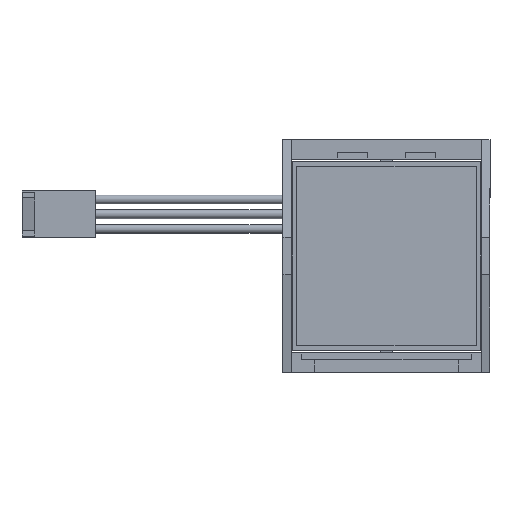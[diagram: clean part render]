
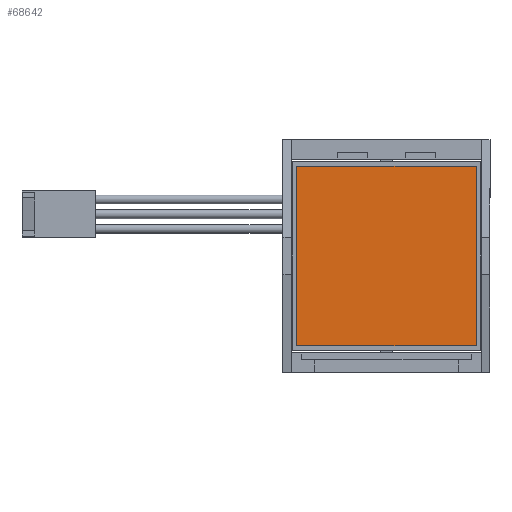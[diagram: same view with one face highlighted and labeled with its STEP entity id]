
A CAD part, front view. The second image highlights one B-rep face of the part: STEP entity #68642.
In plain terms, the highlighted planar face has unit normal (0, -1, 0).
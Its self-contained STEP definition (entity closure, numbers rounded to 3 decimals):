
#5593 = LINE ( 'NONE', #68608, #33980 ) ;
#8227 = EDGE_CURVE ( 'NONE', #39703, #55119, #20271, .T. ) ;
#9285 = EDGE_LOOP ( 'NONE', ( #20214, #18216, #28822, #13923 ) ) ;
#10806 = AXIS2_PLACEMENT_3D ( 'NONE', #64967, #49269, #59716 ) ;
#11554 = VECTOR ( 'NONE', #63632, 1000. ) ;
#13923 = ORIENTED_EDGE ( 'NONE', *, *, #41732, .F. ) ;
#15416 = CARTESIAN_POINT ( 'NONE',  ( -15.5, -0.127, -15.5 ) ) ;
#18216 = ORIENTED_EDGE ( 'NONE', *, *, #8227, .F. ) ;
#19198 = CARTESIAN_POINT ( 'NONE',  ( -15.5, -0.127, 15.5 ) ) ;
#20054 = EDGE_CURVE ( 'NONE', #43763, #39703, #21199, .T. ) ;
#20214 = ORIENTED_EDGE ( 'NONE', *, *, #25226, .F. ) ;
#20271 = LINE ( 'NONE', #15416, #41145 ) ;
#20585 = VERTEX_POINT ( 'NONE', #19198 ) ;
#21199 = LINE ( 'NONE', #31564, #11554 ) ;
#25226 = EDGE_CURVE ( 'NONE', #55119, #20585, #48003, .T. ) ;
#26101 = DIRECTION ( 'NONE',  ( 0., 0., 1. ) ) ;
#28044 = FACE_OUTER_BOUND ( 'NONE', #9285, .T. ) ;
#28822 = ORIENTED_EDGE ( 'NONE', *, *, #20054, .F. ) ;
#30572 = CARTESIAN_POINT ( 'NONE',  ( -15.5, -0.127, -15.5 ) ) ;
#31564 = CARTESIAN_POINT ( 'NONE',  ( 15.5, -0.127, -15.5 ) ) ;
#33980 = VECTOR ( 'NONE', #52945, 1000. ) ;
#39703 = VERTEX_POINT ( 'NONE', #67791 ) ;
#41145 = VECTOR ( 'NONE', #63395, 1000. ) ;
#41732 = EDGE_CURVE ( 'NONE', #20585, #43763, #5593, .T. ) ;
#42707 = CARTESIAN_POINT ( 'NONE',  ( 15.5, -0.127, 15.5 ) ) ;
#43763 = VERTEX_POINT ( 'NONE', #42707 ) ;
#44731 = PLANE ( 'NONE',  #10806 ) ;
#48003 = LINE ( 'NONE', #30572, #48975 ) ;
#48975 = VECTOR ( 'NONE', #26101, 1000. ) ;
#49269 = DIRECTION ( 'NONE',  ( 0., 1., 0. ) ) ;
#52945 = DIRECTION ( 'NONE',  ( 1., 0., 0. ) ) ;
#55119 = VERTEX_POINT ( 'NONE', #61662 ) ;
#59716 = DIRECTION ( 'NONE',  ( 0., 0., 1. ) ) ;
#61662 = CARTESIAN_POINT ( 'NONE',  ( -15.5, -0.127, -15.5 ) ) ;
#63395 = DIRECTION ( 'NONE',  ( -1., 0., 0. ) ) ;
#63632 = DIRECTION ( 'NONE',  ( 0., 0., -1. ) ) ;
#64967 = CARTESIAN_POINT ( 'NONE',  ( -15.5, -0.127, 15.5 ) ) ;
#67791 = CARTESIAN_POINT ( 'NONE',  ( 15.5, -0.127, -15.5 ) ) ;
#68608 = CARTESIAN_POINT ( 'NONE',  ( -15.5, -0.127, 15.5 ) ) ;
#68642 = ADVANCED_FACE ( 'NONE', ( #28044 ), #44731, .F. ) ;
